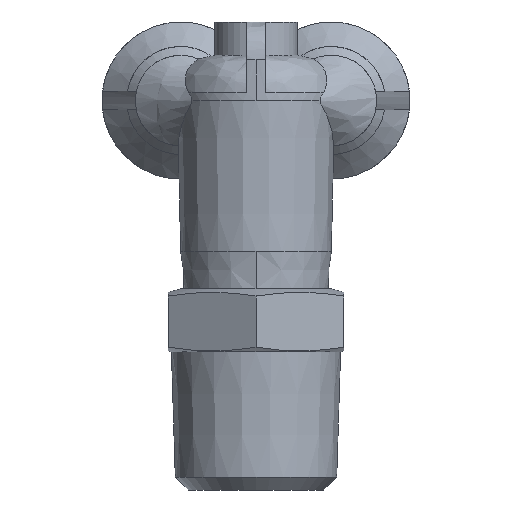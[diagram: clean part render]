
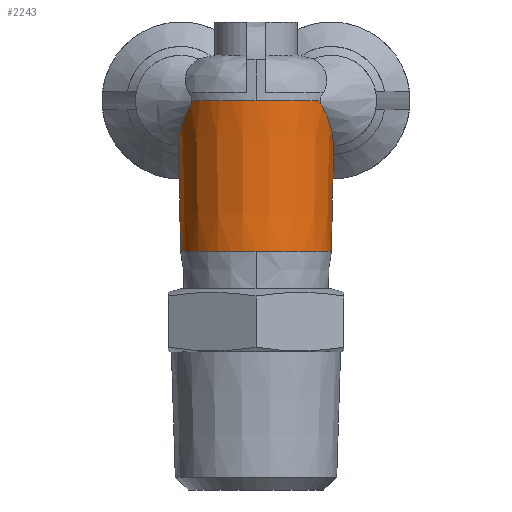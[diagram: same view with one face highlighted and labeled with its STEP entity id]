
A CAD part, left-side view. The second image highlights one B-rep face of the part: STEP entity #2243.
In plain terms, the highlighted conical face has half-angle 1.193 degrees and reference radius 6.25 mm.
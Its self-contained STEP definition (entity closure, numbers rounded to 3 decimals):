
#130 = AXIS2_PLACEMENT_3D ( 'NONE', #4448, #2024, #4858 ) ;
#170 = CARTESIAN_POINT ( 'NONE',  ( 0., 0., 19. ) ) ;
#209 = CARTESIAN_POINT ( 'NONE',  ( -2.289, 5.79, 29.469 ) ) ;
#268 = CARTESIAN_POINT ( 'NONE',  ( -2.589, -5.67, 29.759 ) ) ;
#414 = EDGE_CURVE ( 'NONE', #2356, #1736, #1581, .T. ) ;
#541 = VERTEX_POINT ( 'NONE', #5205 ) ;
#570 = DIRECTION ( 'NONE',  ( 1., 0., 0. ) ) ;
#608 = CARTESIAN_POINT ( 'NONE',  ( -0.745, 6.176, 27.989 ) ) ;
#611 = CARTESIAN_POINT ( 'NONE',  ( 0., 0., 19. ) ) ;
#646 = CARTESIAN_POINT ( 'NONE',  ( -0.1, -6.174, 27.404 ) ) ;
#662 = CARTESIAN_POINT ( 'NONE',  ( -3.17, -5.373, 30.334 ) ) ;
#712 = B_SPLINE_CURVE_WITH_KNOTS ( 'NONE', 3,
 ( #3419, #3012, #3840, #1419, #4252, #1829, #4656, #2222, #5059, #2634, #209, #3029, #608, #3445 ),
 .UNSPECIFIED., .F., .F.,
 ( 4, 2, 2, 2, 2, 2, 4 ),
 ( 0., 0., 0., 0.001, 0.001, 0.003, 0.005 ),
 .UNSPECIFIED. ) ;
#757 = CARTESIAN_POINT ( 'NONE',  ( 0., 6.175, 27.404 ) ) ;
#885 = CIRCLE ( 'NONE', #2337, 6. ) ;
#945 = DIRECTION ( 'NONE',  ( 0., 0., 1. ) ) ;
#947 = VERTEX_POINT ( 'NONE', #2462 ) ;
#1008 = CARTESIAN_POINT ( 'NONE',  ( -6.25, 0., 31. ) ) ;
#1019 = CIRCLE ( 'NONE', #130, 6.25 ) ;
#1027 = DIRECTION ( 'NONE',  ( 1., 0., 0. ) ) ;
#1071 = CARTESIAN_POINT ( 'NONE',  ( -0.422, -6.175, 27.696 ) ) ;
#1085 = CARTESIAN_POINT ( 'NONE',  ( -3.443, -5.208, 30.631 ) ) ;
#1160 = DIRECTION ( 'NONE',  ( 0., 0., -1. ) ) ;
#1190 = AXIS2_PLACEMENT_3D ( 'NONE', #611, #3451, #1027 ) ;
#1196 = AXIS2_PLACEMENT_3D ( 'NONE', #3576, #1160, #3988 ) ;
#1218 = VERTEX_POINT ( 'NONE', #1008 ) ;
#1295 = DIRECTION ( 'NONE',  ( 0., -0.021, 1. ) ) ;
#1419 = CARTESIAN_POINT ( 'NONE',  ( -3.561, 5.131, 30.796 ) ) ;
#1495 = CARTESIAN_POINT ( 'NONE',  ( -3.561, -5.131, 30.796 ) ) ;
#1581 = B_SPLINE_CURVE_WITH_KNOTS ( 'NONE', 3,
 ( #4572, #2459, #4887, #2067 ),
 .UNSPECIFIED., .F., .F.,
 ( 4, 4 ),
 ( 0.005, 0.006 ),
 .UNSPECIFIED. ) ;
#1704 = CARTESIAN_POINT ( 'NONE',  ( 0., 6., 19. ) ) ;
#1717 = VERTEX_POINT ( 'NONE', #3537 ) ;
#1728 = ORIENTED_EDGE ( 'NONE', *, *, #4326, .T. ) ;
#1736 = VERTEX_POINT ( 'NONE', #1956 ) ;
#1738 = CIRCLE ( 'NONE', #1190, 6. ) ;
#1762 = DIRECTION ( 'NONE',  ( 0., -1., 0. ) ) ;
#1777 = CARTESIAN_POINT ( 'NONE',  ( 0., 0., 31. ) ) ;
#1811 = ORIENTED_EDGE ( 'NONE', *, *, #2924, .T. ) ;
#1829 = CARTESIAN_POINT ( 'NONE',  ( -3.442, 5.208, 30.63 ) ) ;
#1899 = CARTESIAN_POINT ( 'NONE',  ( -3.622, -5.092, 30.945 ) ) ;
#1956 = CARTESIAN_POINT ( 'NONE',  ( -0.1, -6.174, 27.404 ) ) ;
#1973 = VECTOR ( 'NONE', #4863, 1000. ) ;
#2013 = EDGE_LOOP ( 'NONE', ( #2797, #3841, #4756, #4897, #3720, #3669, #5029, #1728, #4654, #1811 ) ) ;
#2024 = DIRECTION ( 'NONE',  ( 0., 0., -1. ) ) ;
#2067 = CARTESIAN_POINT ( 'NONE',  ( -0.1, -6.174, 27.404 ) ) ;
#2100 = LINE ( 'NONE', #5246, #1973 ) ;
#2222 = CARTESIAN_POINT ( 'NONE',  ( -3.17, 5.373, 30.334 ) ) ;
#2243 = ADVANCED_FACE ( '73', ( #3881 ), #3753, .T. ) ;
#2285 = CARTESIAN_POINT ( 'NONE',  ( -1.368, -6.055, 28.583 ) ) ;
#2294 = EDGE_CURVE ( 'NONE', #2396, #947, #1738, .T. ) ;
#2337 = AXIS2_PLACEMENT_3D ( 'NONE', #170, #2994, #570 ) ;
#2356 = VERTEX_POINT ( 'NONE', #4715 ) ;
#2396 = VERTEX_POINT ( 'NONE', #5155 ) ;
#2459 = CARTESIAN_POINT ( 'NONE',  ( -0.033, -6.175, 27.404 ) ) ;
#2462 = CARTESIAN_POINT ( 'NONE',  ( -6., 0., 19. ) ) ;
#2634 = CARTESIAN_POINT ( 'NONE',  ( -2.59, 5.669, 29.76 ) ) ;
#2690 = CARTESIAN_POINT ( 'NONE',  ( -2.288, -5.791, 29.468 ) ) ;
#2710 = EDGE_CURVE ( 'NONE', #947, #4571, #885, .T. ) ;
#2762 = EDGE_CURVE ( 'NONE', #4009, #1717, #712, .T. ) ;
#2780 = CARTESIAN_POINT ( 'NONE',  ( -0.067, 6.175, 27.404 ) ) ;
#2789 = VERTEX_POINT ( 'NONE', #4671 ) ;
#2797 = ORIENTED_EDGE ( 'NONE', *, *, #3981, .F. ) ;
#2924 = EDGE_CURVE ( 'NONE', #1717, #2789, #3714, .T. ) ;
#2994 = DIRECTION ( 'NONE',  ( 0., 0., -1. ) ) ;
#3012 = CARTESIAN_POINT ( 'NONE',  ( -3.622, 5.092, 30.945 ) ) ;
#3029 = CARTESIAN_POINT ( 'NONE',  ( -1.374, 6.079, 28.587 ) ) ;
#3085 = CARTESIAN_POINT ( 'NONE',  ( -3.026, -5.452, 30.191 ) ) ;
#3188 = CARTESIAN_POINT ( 'NONE',  ( -0.033, 6.175, 27.404 ) ) ;
#3419 = CARTESIAN_POINT ( 'NONE',  ( -3.619, 5.095, 31. ) ) ;
#3445 = CARTESIAN_POINT ( 'NONE',  ( -0.1, 6.174, 27.404 ) ) ;
#3451 = DIRECTION ( 'NONE',  ( 0., 0., -1. ) ) ;
#3474 = EDGE_CURVE ( 'NONE', #541, #1218, #1019, .T. ) ;
#3501 = CARTESIAN_POINT ( 'NONE',  ( -3.375, -5.25, 30.556 ) ) ;
#3537 = CARTESIAN_POINT ( 'NONE',  ( -0.1, 6.174, 27.404 ) ) ;
#3576 = CARTESIAN_POINT ( 'NONE',  ( 0., 0., 31. ) ) ;
#3664 = VECTOR ( 'NONE', #1295, 1000. ) ;
#3669 = ORIENTED_EDGE ( 'NONE', *, *, #4263, .T. ) ;
#3714 = B_SPLINE_CURVE_WITH_KNOTS ( 'NONE', 3,
 ( #3998, #2780, #3188, #757 ),
 .UNSPECIFIED., .F., .F.,
 ( 4, 4 ),
 ( 0., 0. ),
 .UNSPECIFIED. ) ;
#3720 = ORIENTED_EDGE ( 'NONE', *, *, #414, .T. ) ;
#3722 = CARTESIAN_POINT ( 'NONE',  ( 0., -6.25, 31. ) ) ;
#3753 = CONICAL_SURFACE ( 'NONE', #5088, 6.25, 0.021 ) ;
#3840 = CARTESIAN_POINT ( 'NONE',  ( -3.606, 5.102, 30.891 ) ) ;
#3841 = ORIENTED_EDGE ( 'NONE', *, *, #2710, .F. ) ;
#3881 = FACE_OUTER_BOUND ( 'NONE', #2013, .T. ) ;
#3917 = CARTESIAN_POINT ( 'NONE',  ( -3.533, -5.15, 30.753 ) ) ;
#3981 = EDGE_CURVE ( 'NONE', #4571, #2789, #2100, .T. ) ;
#3988 = DIRECTION ( 'NONE',  ( 1., 0., 0. ) ) ;
#3998 = CARTESIAN_POINT ( 'NONE',  ( -0.1, 6.174, 27.404 ) ) ;
#4009 = VERTEX_POINT ( 'NONE', #5260 ) ;
#4038 = B_SPLINE_CURVE_WITH_KNOTS ( 'NONE', 3,
 ( #646, #1071, #4717, #2285, #5121, #2690, #268, #3085, #662, #3501, #1085, #3917, #1495, #4324, #1899, #4739 ),
 .UNSPECIFIED., .F., .F.,
 ( 4, 2, 2, 2, 2, 2, 2, 4 ),
 ( 0., 0.001, 0.003, 0.004, 0.005, 0.005, 0.005, 0.005 ),
 .UNSPECIFIED. ) ;
#4252 = CARTESIAN_POINT ( 'NONE',  ( -3.533, 5.15, 30.753 ) ) ;
#4263 = EDGE_CURVE ( 'NONE', #1736, #541, #4038, .T. ) ;
#4324 = CARTESIAN_POINT ( 'NONE',  ( -3.606, -5.102, 30.89 ) ) ;
#4326 = EDGE_CURVE ( 'NONE', #1218, #4009, #5132, .T. ) ;
#4448 = CARTESIAN_POINT ( 'NONE',  ( 0., 0., 31. ) ) ;
#4571 = VERTEX_POINT ( 'NONE', #1704 ) ;
#4572 = CARTESIAN_POINT ( 'NONE',  ( 0., -6.175, 27.404 ) ) ;
#4618 = LINE ( 'NONE', #3722, #3664 ) ;
#4654 = ORIENTED_EDGE ( 'NONE', *, *, #2762, .T. ) ;
#4656 = CARTESIAN_POINT ( 'NONE',  ( -3.375, 5.25, 30.556 ) ) ;
#4671 = CARTESIAN_POINT ( 'NONE',  ( 0., 6.175, 27.404 ) ) ;
#4715 = CARTESIAN_POINT ( 'NONE',  ( 0., -6.175, 27.404 ) ) ;
#4717 = CARTESIAN_POINT ( 'NONE',  ( -0.74, -6.151, 27.991 ) ) ;
#4739 = CARTESIAN_POINT ( 'NONE',  ( -3.619, -5.095, 31. ) ) ;
#4756 = ORIENTED_EDGE ( 'NONE', *, *, #2294, .F. ) ;
#4858 = DIRECTION ( 'NONE',  ( 1., 0., 0. ) ) ;
#4863 = DIRECTION ( 'NONE',  ( 0., 0.021, 1. ) ) ;
#4887 = CARTESIAN_POINT ( 'NONE',  ( -0.067, -6.175, 27.404 ) ) ;
#4897 = ORIENTED_EDGE ( 'NONE', *, *, #5060, .T. ) ;
#5029 = ORIENTED_EDGE ( 'NONE', *, *, #3474, .T. ) ;
#5059 = CARTESIAN_POINT ( 'NONE',  ( -3.026, 5.452, 30.191 ) ) ;
#5060 = EDGE_CURVE ( 'NONE', #2396, #2356, #4618, .T. ) ;
#5088 = AXIS2_PLACEMENT_3D ( 'NONE', #1777, #945, #1762 ) ;
#5121 = CARTESIAN_POINT ( 'NONE',  ( -1.679, -5.983, 28.88 ) ) ;
#5132 = CIRCLE ( 'NONE', #1196, 6.25 ) ;
#5155 = CARTESIAN_POINT ( 'NONE',  ( 0., -6., 19. ) ) ;
#5205 = CARTESIAN_POINT ( 'NONE',  ( -3.619, -5.095, 31. ) ) ;
#5246 = CARTESIAN_POINT ( 'NONE',  ( 0., 6.25, 31. ) ) ;
#5260 = CARTESIAN_POINT ( 'NONE',  ( -3.619, 5.095, 31. ) ) ;
